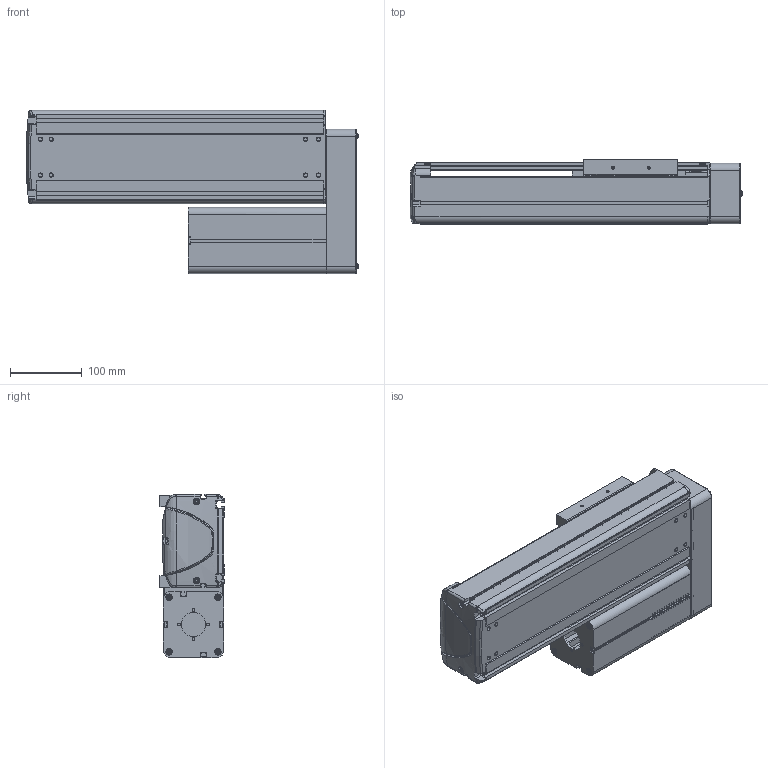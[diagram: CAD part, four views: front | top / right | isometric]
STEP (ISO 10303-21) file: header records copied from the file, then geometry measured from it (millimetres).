
FILE_DESCRIPTION((''),'2;1');
FILE_NAME('BE30E-UL-M_B-20_IGS_PRT','2017-06-17T',(' '),(''),'PRO/ENGINEER BY PARAMETRIC TECHNOLOGY CORPORATION, 2015030','PRO/ENGINEER BY PARAMETRIC TECHNOLOGY CORPORATION, 2015030','');
FILE_SCHEMA(('CONFIG_CONTROL_DESIGN'));
Products named in the file (1): BE30E-UL-M_B-20_IGS_PRT
Bounding box: 461.9 x 89.8 x 227 mm (x, y, z)
Volume: 1931330.4 mm3; surface area: 884655.5 mm2
Topology: 2 solids, 102 shells, 1941 faces, 5193 edges, 3364 vertices
Faces by surface type: plane 984, cylinder 761, cone 103, torus 39, bspline 30, sphere 24
Entity records: 62460 total; most frequent: CARTESIAN_POINT 13169, DIRECTION 10417, ORIENTED_EDGE 9934, EDGE_CURVE 5155, AXIS2_PLACEMENT_3D 3634, VERTEX_POINT 3364, VECTOR 3149, LINE 3149
